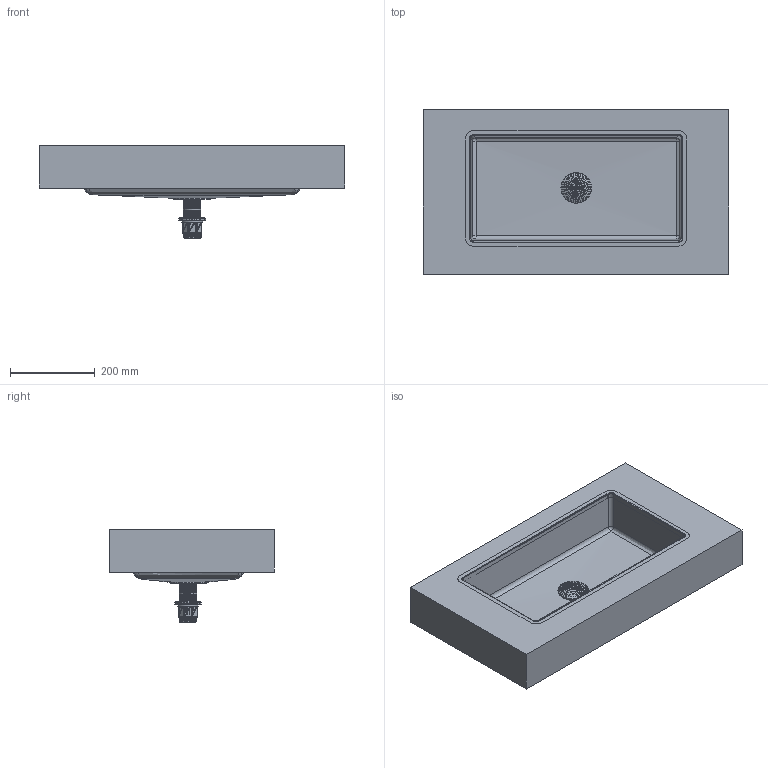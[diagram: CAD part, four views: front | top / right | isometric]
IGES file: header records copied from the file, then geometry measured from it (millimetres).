
Start section: Data from Parasolid IGES Translator 19.0.9, Copyright(c) 2006 Siemens PL M Software. All Rights Reserved.
Global section: file name: noorth-top-H 10 D 38,8 W 72_6531.igs; native system: By Siemens PLM Incorporated; preprocessor: XPlus GENERIC/IGES 19.0.9; author: Noname; organization: Noname; date: 20200603.085932; units: metre
Bounding box: 720 x 388 x 218.72 mm (x, y, z)
Volume: 7266771.4 mm3; surface area: 1254963.2 mm2
Topology: 2 solids, 2 shells, 11704 faces, 35093 edges, 35005 vertices
Faces by surface type: extrusion 11618, bspline 32, plane 29, cylinder 22, torus 2, cone 1
Full cylindrical faces by diameter (mm): 46 x1, 86 x1
